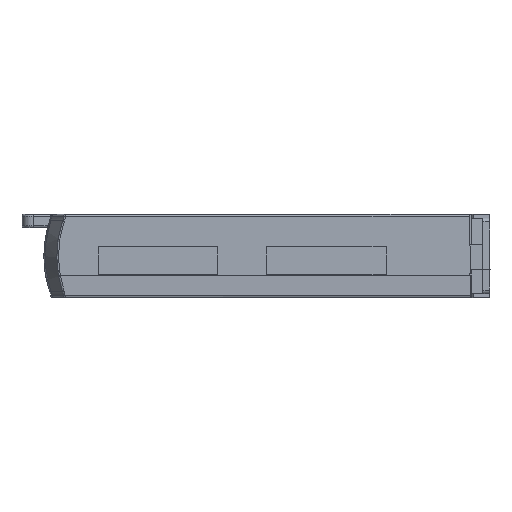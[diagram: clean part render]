
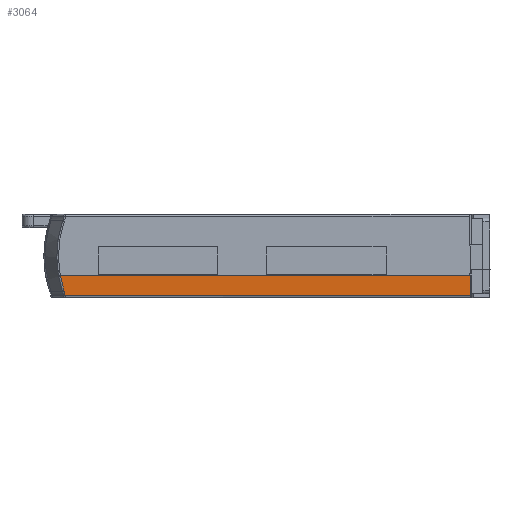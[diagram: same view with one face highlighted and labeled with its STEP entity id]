
A CAD part, front view. The second image highlights one B-rep face of the part: STEP entity #3064.
In plain terms, the highlighted planar face has unit normal (0, -1, -0.026).
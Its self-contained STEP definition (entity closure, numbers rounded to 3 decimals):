
#22 = LINE ( 'NONE', #3124, #5353 ) ;
#96 = DIRECTION ( 'NONE',  ( 0., 0.026, -1. ) ) ;
#466 = CARTESIAN_POINT ( 'NONE',  ( 31.16, 56.378, 124.828 ) ) ;
#526 = VECTOR ( 'NONE', #7672, 1000. ) ;
#578 = ORIENTED_EDGE ( 'NONE', *, *, #7821, .T. ) ;
#665 = CARTESIAN_POINT ( 'NONE',  ( 38.991, 56.24, 130.126 ) ) ;
#758 = CARTESIAN_POINT ( 'NONE',  ( 40.252, 56.378, 124.828 ) ) ;
#812 = VECTOR ( 'NONE', #2557, 1000. ) ;
#1006 = ORIENTED_EDGE ( 'NONE', *, *, #7857, .F. ) ;
#1041 = CARTESIAN_POINT ( 'NONE',  ( 39.996, 56.345, 126.098 ) ) ;
#1054 = ORIENTED_EDGE ( 'NONE', *, *, #4119, .T. ) ;
#1294 = B_SPLINE_CURVE_WITH_KNOTS ( 'NONE', 3,
 ( #6934, #7666, #2748, #6159 ),
 .UNSPECIFIED., .F., .F.,
 ( 4, 4 ),
 ( 0., 1. ),
 .UNSPECIFIED. ) ;
#1733 = CARTESIAN_POINT ( 'NONE',  ( 39.225, 56.275, 128.755 ) ) ;
#1904 = EDGE_LOOP ( 'NONE', ( #1054, #8408, #3199, #4649, #578, #1006 ) ) ;
#1917 = CARTESIAN_POINT ( 'NONE',  ( 147.499, 56.24, 130.126 ) ) ;
#2557 = DIRECTION ( 'NONE',  ( -0.996, 0.002, -0.088 ) ) ;
#2748 = CARTESIAN_POINT ( 'NONE',  ( 40.218, 56.367, 125.26 ) ) ;
#2827 = VERTEX_POINT ( 'NONE', #5901 ) ;
#2953 = CARTESIAN_POINT ( 'NONE',  ( 39.996, 56.345, 126.098 ) ) ;
#3064 = ADVANCED_FACE ( 'NONE', ( #3365 ), #8530, .T. ) ;
#3124 = CARTESIAN_POINT ( 'NONE',  ( 147.36, 56.378, 124.828 ) ) ;
#3166 = CARTESIAN_POINT ( 'NONE',  ( 38.988, 56.24, 130.125 ) ) ;
#3199 = ORIENTED_EDGE ( 'NONE', *, *, #7409, .T. ) ;
#3204 = CARTESIAN_POINT ( 'NONE',  ( 38.991, 56.24, 130.126 ) ) ;
#3365 = FACE_OUTER_BOUND ( 'NONE', #1904, .T. ) ;
#3621 = EDGE_CURVE ( 'NONE', #5723, #6095, #7968, .T. ) ;
#3843 = LINE ( 'NONE', #3204, #812 ) ;
#4038 = CARTESIAN_POINT ( 'NONE',  ( 31.16, 56.24, 130.126 ) ) ;
#4119 = EDGE_CURVE ( 'NONE', #8989, #2827, #3843, .T. ) ;
#4649 = ORIENTED_EDGE ( 'NONE', *, *, #3621, .F. ) ;
#4748 = DIRECTION ( 'NONE',  ( 1., 0., 0. ) ) ;
#4813 = EDGE_CURVE ( 'NONE', #2827, #5415, #5942, .T. ) ;
#4936 = VECTOR ( 'NONE', #4748, 1000. ) ;
#5353 = VECTOR ( 'NONE', #7188, 1000. ) ;
#5415 = VERTEX_POINT ( 'NONE', #2953 ) ;
#5666 = DIRECTION ( 'NONE',  ( 0., -1., -0.026 ) ) ;
#5723 = VERTEX_POINT ( 'NONE', #8824 ) ;
#5901 = CARTESIAN_POINT ( 'NONE',  ( 38.988, 56.24, 130.125 ) ) ;
#5942 = B_SPLINE_CURVE_WITH_KNOTS ( 'NONE', 3,
 ( #3166, #1733, #6643, #1041 ),
 .UNSPECIFIED., .F., .F.,
 ( 4, 4 ),
 ( 0., 1. ),
 .UNSPECIFIED. ) ;
#6095 = VERTEX_POINT ( 'NONE', #758 ) ;
#6159 = CARTESIAN_POINT ( 'NONE',  ( 40.252, 56.378, 124.828 ) ) ;
#6426 = CARTESIAN_POINT ( 'NONE',  ( 31.16, 56.24, 130.126 ) ) ;
#6440 = AXIS2_PLACEMENT_3D ( 'NONE', #6426, #5666, #96 ) ;
#6572 = VERTEX_POINT ( 'NONE', #1917 ) ;
#6643 = CARTESIAN_POINT ( 'NONE',  ( 39.561, 56.311, 127.413 ) ) ;
#6765 = LINE ( 'NONE', #4038, #4936 ) ;
#6934 = CARTESIAN_POINT ( 'NONE',  ( 39.996, 56.345, 126.098 ) ) ;
#7188 = DIRECTION ( 'NONE',  ( 0.026, -0.026, 0.999 ) ) ;
#7409 = EDGE_CURVE ( 'NONE', #5415, #6095, #1294, .T. ) ;
#7666 = CARTESIAN_POINT ( 'NONE',  ( 40.133, 56.356, 125.683 ) ) ;
#7672 = DIRECTION ( 'NONE',  ( -1., 0., 0. ) ) ;
#7821 = EDGE_CURVE ( 'NONE', #5723, #6572, #22, .T. ) ;
#7857 = EDGE_CURVE ( 'NONE', #8989, #6572, #6765, .T. ) ;
#7968 = LINE ( 'NONE', #466, #526 ) ;
#8408 = ORIENTED_EDGE ( 'NONE', *, *, #4813, .T. ) ;
#8530 = PLANE ( 'NONE',  #6440 ) ;
#8824 = CARTESIAN_POINT ( 'NONE',  ( 147.36, 56.378, 124.828 ) ) ;
#8989 = VERTEX_POINT ( 'NONE', #665 ) ;
